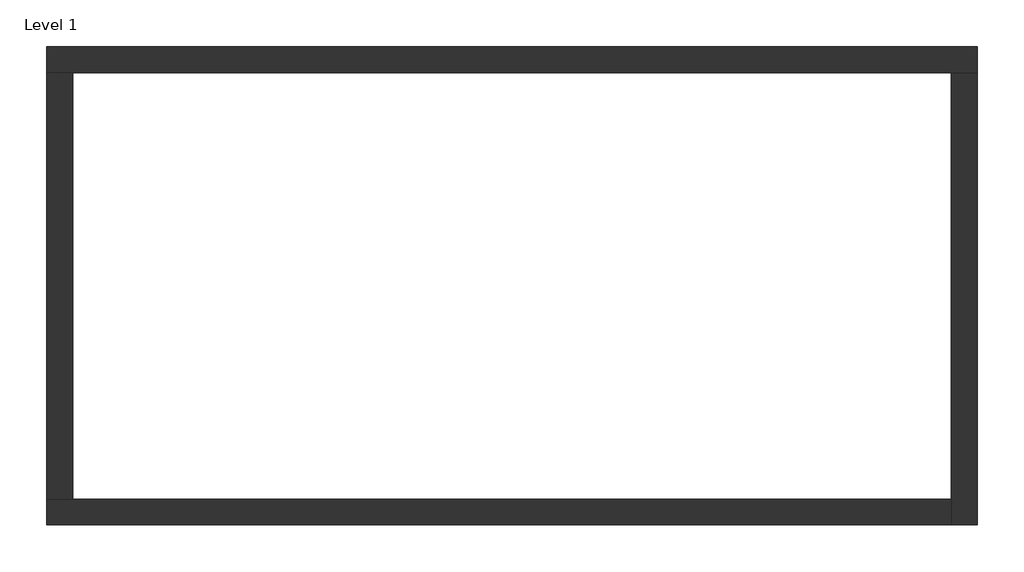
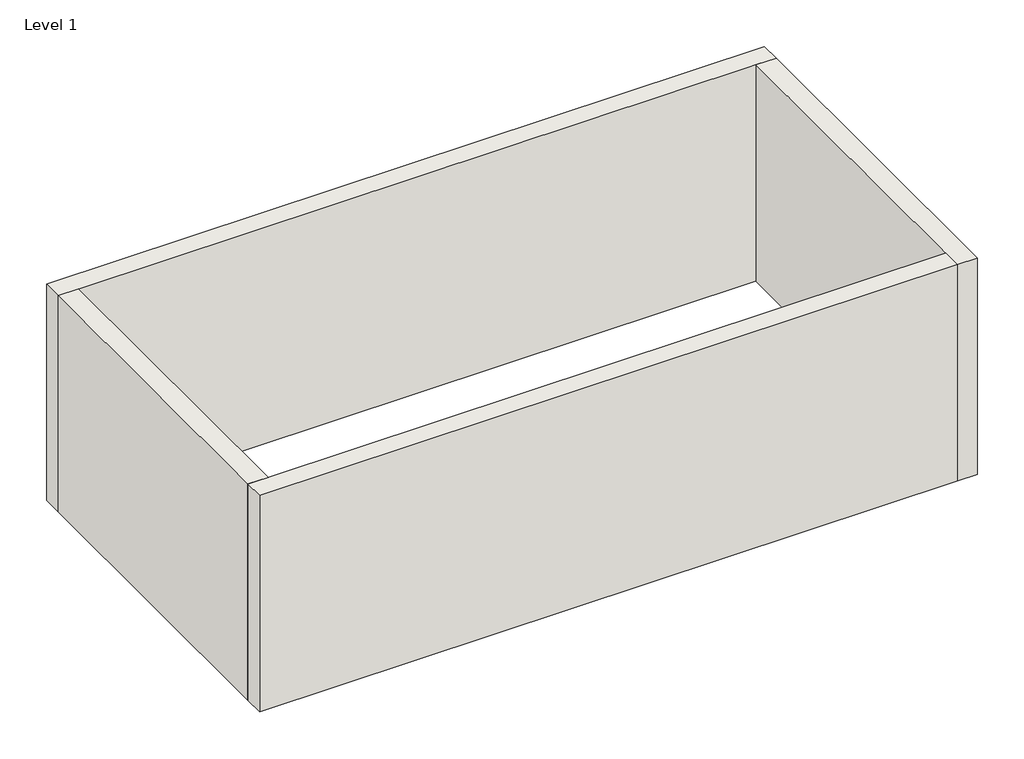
# One storey: 4 walls.
"""IFC4 building model written with IfcOpenShell, lengths in millimetres."""

import ifcopenshell
import ifcopenshell.guid

model = None  # the IFC model being written
_history = None  # IfcOwnerHistory: only IFC2X3 demands one
_inside = {}  # id of a spatial element -> (the spatial element, [elements in it])
_under = {}  # id of a project, library or spatial element -> (it, [spatial elements below it])
_declared = {}  # id of a project -> (the project, [libraries it declares])
_typed = {}  # id of a type object -> (the type object, [elements of that type])
_made_of = {}  # id of a material, layer set ... -> (it, [elements and type objects made of it])


def new_model(schema):
    """Start an empty IFC model of exactly this schema.

    Asked for "IFC4X3", IfcOpenShell would pick the latest addendum, in which some entities
    have other attributes; the version numbers below select the first issue.
    IFC2X3 requires an IfcOwnerHistory on every rooted entity: one is made here for all.
    """
    global model, _history
    if schema == "IFC4X3":
        model = ifcopenshell.file(schema_version=(4, 3, 0, 0))
    else:
        model = ifcopenshell.file(schema=schema)
    _inside.clear()
    _under.clear()
    _declared.clear()
    _typed.clear()
    _made_of.clear()
    _history = None
    if model.schema == "IFC2X3":
        org = make("IfcOrganization", Name="unknown")
        user = make(
            "IfcPersonAndOrganization",
            ThePerson=make("IfcPerson", FamilyName="unknown"),
            TheOrganization=org,
        )
        app = make(
            "IfcApplication",
            ApplicationDeveloper=org,
            Version="unknown",
            ApplicationFullName="unknown",
            ApplicationIdentifier="unknown",
        )
        _history = make(
            "IfcOwnerHistory",
            OwningUser=user,
            OwningApplication=app,
            ChangeAction="ADDED",
            CreationDate=0,
        )
    return model


def make(cls, **values):
    """One entity of the class cls with the attributes given. An attribute that is None is left unset."""
    return model.create_entity(
        cls, **{name: value for name, value in values.items() if value is not None}
    )


def rooted(cls, **values):
    """An entity with a GlobalId (a new one), such as an element, a storey or a relation."""
    return make(cls, GlobalId=ifcopenshell.guid.new(), OwnerHistory=_history, **values)


def si_unit(unit_type, name, prefix=None):
    """IfcSIUnit, for example si_unit("LENGTHUNIT", "METRE", prefix="MILLI")."""
    return make("IfcSIUnit", UnitType=unit_type, Prefix=prefix, Name=name)


def assignment(units):
    """IfcUnitAssignment: the units of a project."""
    return None if units is None else make("IfcUnitAssignment", Units=units)


def point(xyz):
    """IfcCartesianPoint."""
    return None if xyz is None else make("IfcCartesianPoint", Coordinates=xyz)


def direction(xyz):
    """IfcDirection."""
    return None if xyz is None else make("IfcDirection", DirectionRatios=xyz)


def frame(location, z_axis=None, x_axis=None):
    """IfcAxis2Placement3D, a coordinate frame: its origin and axes. An axis left out is left unset."""
    return make(
        "IfcAxis2Placement3D",
        Location=point(location),
        Axis=direction(z_axis),
        RefDirection=direction(x_axis),
    )


def origin():
    """The frame at (0, 0, 0) with its axes left unset."""
    return frame((0.0, 0.0, 0.0))


def origin_with_axes():
    """The frame at (0, 0, 0) with the z axis (0, 0, 1) and the x axis (1, 0, 0) written out."""
    return frame((0.0, 0.0, 0.0), z_axis=(0.0, 0.0, 1.0), x_axis=(1.0, 0.0, 0.0))


def place(relative_to, where):
    """IfcLocalPlacement: puts the frame where relative to a parent placement (None: the world)."""
    return make(
        "IfcLocalPlacement", PlacementRelTo=relative_to, RelativePlacement=where
    )


def context(
    kind, dimensions, precision=None, world=None, true_north=None, identifier=None
):
    """IfcGeometricRepresentationContext, for example the 3D "Model" context."""
    return make(
        "IfcGeometricRepresentationContext",
        ContextIdentifier=identifier,
        ContextType=kind,
        CoordinateSpaceDimension=dimensions,
        Precision=precision,
        WorldCoordinateSystem=world,
        TrueNorth=true_north,
    )


def project(units=None, contexts=None):
    """IfcProject with its units and contexts."""
    return rooted(
        "IfcProject",
        Name="project",
        RepresentationContexts=contexts,
        UnitsInContext=assignment(units),
    )


def spatial(cls, under=None, at=None, **own):
    """A site, building, storey or space (cls), placed at a placement, below another one or the project."""
    s = rooted(cls, ObjectPlacement=at, **own)
    if under is not None:
        _under.setdefault(under.id(), (under, []))[1].append(s)
    return s


def polyline(points):
    """IfcPolyline through the points."""
    return make("IfcPolyline", Points=[point(p) for p in points])


def outline(outer, holes=None, kind="AREA"):
    """IfcArbitraryClosedProfileDef: a profile drawn as a closed curve; with holes, ...WithVoids."""
    if holes is None:
        return make("IfcArbitraryClosedProfileDef", ProfileType=kind, OuterCurve=outer)
    return make(
        "IfcArbitraryProfileDefWithVoids",
        ProfileType=kind,
        OuterCurve=outer,
        InnerCurves=holes,
    )


def extrude(swept, where, along, depth):
    """IfcExtrudedAreaSolid: the profile swept, set in the frame where, extruded along a direction by depth."""
    return make(
        "IfcExtrudedAreaSolid",
        SweptArea=swept,
        Position=where,
        ExtrudedDirection=direction(along),
        Depth=depth,
    )


def faces_of(points, faces, orient=None, outer=None):
    """IfcFace entities. A face is a list of loops; a loop is a list of indices into points, from 0.

    orient and outer hold one flag for each loop. By default every Orientation is true, the
    first loop of a face is its IfcFaceOuterBound and the others are IfcFaceBound.
    """
    made = []
    for i, loops in enumerate(faces):
        bounds = []
        for j, loop in enumerate(loops):
            is_outer = j == 0 if outer is None else outer[i][j]
            bounds.append(
                make(
                    "IfcFaceOuterBound" if is_outer else "IfcFaceBound",
                    Bound=make("IfcPolyLoop", Polygon=[points[k] for k in loop]),
                    Orientation=True if orient is None else orient[i][j],
                )
            )
        made.append(make("IfcFace", Bounds=bounds))
    return made


def faceted_brep(points, faces, orient=None, outer=None, voids=None):
    """IfcFacetedBrep: a solid bounded by flat faces; with voids (closed shells), ...WithVoids."""
    shared = [point(p) for p in points]
    hull = make("IfcClosedShell", CfsFaces=faces_of(shared, faces, orient, outer))
    if voids is None:
        return make("IfcFacetedBrep", Outer=hull)
    return make(
        "IfcFacetedBrepWithVoids",
        Outer=hull,
        Voids=[
            make(cls, CfsFaces=faces_of(shared, fs, o, b)) for cls, fs, o, b in voids
        ],
    )


def shape(context_of_items, identifier, shape_type, items):
    """IfcShapeRepresentation: the items that make up one representation, for example the "Body"."""
    return make(
        "IfcShapeRepresentation",
        ContextOfItems=context_of_items,
        RepresentationIdentifier=identifier,
        RepresentationType=shape_type,
        Items=items,
    )


def made_of(thing, what):
    """Note that an element or type object is made of a material, layer set ...; save() writes the relation."""
    if what is not None:
        _made_of.setdefault(what.id(), (what, []))[1].append(thing)
    return thing


def element(
    cls,
    number,
    at=None,
    inside=None,
    cuts=None,
    type_object=None,
    material=None,
    context=None,
    identifier="Body",
    shape_type=None,
    held_by="IfcProductDefinitionShape",
    body=None,
    shapes=None,
    **own,
):
    """One element of the class cls, such as IfcWall. Its Tag is "e" and its number.

    at: its placement. inside: the storey or other place that contains it. cuts: it is an
    opening in that element (IfcRelVoidsElement). A single representation is given by context,
    identifier, shape_type and body (its items); several are given by shapes. held_by: the class
    of the entity that holds the representations. save() writes the other relations.
    """
    e = rooted(cls, Tag="e%d" % number, ObjectPlacement=at, **own)
    if body is not None:
        shapes = [shape(context, identifier, shape_type, body)]
    if shapes is not None:
        e.Representation = make(held_by, Representations=shapes)
    if inside is not None:
        _inside.setdefault(inside.id(), (inside, []))[1].append(e)
    if cuts is not None:
        rooted(
            "IfcRelVoidsElement", RelatingBuildingElement=cuts, RelatedOpeningElement=e
        )
    if type_object is not None:
        _typed.setdefault(type_object.id(), (type_object, []))[1].append(e)
    return made_of(e, material)


def aggregate(whole, parts):
    """IfcRelAggregates: a whole, such as a stair, and the parts it consists of."""
    return rooted("IfcRelAggregates", RelatingObject=whole, RelatedObjects=parts)


def save(model, path):
    """Write the relations noted so far, then the file.

    IfcRelAggregates (storeys below a building ...), IfcRelContainedInSpatialStructure (elements
    in a storey), IfcRelDefinesByType, IfcRelAssociatesMaterial and IfcRelDeclares: one each for
    every whole, place, type object, material and project.
    """
    for whole, parts in _under.values():
        aggregate(whole, parts)
    for where, things in _inside.values():
        rooted(
            "IfcRelContainedInSpatialStructure",
            RelatedElements=things,
            RelatingStructure=where,
        )
    for kind, things in _typed.values():
        rooted("IfcRelDefinesByType", RelatedObjects=things, RelatingType=kind)
    for what, things in _made_of.values():
        rooted("IfcRelAssociatesMaterial", RelatedObjects=things, RelatingMaterial=what)
    for by, libraries in _declared.values():
        rooted("IfcRelDeclares", RelatingContext=by, RelatedDefinitions=libraries)
    model.write(path)


model = new_model("IFC4")

# Units and contexts
model_context = context("Model", 3, world=origin())
ifc_project = project(units=[si_unit("LENGTHUNIT", "METRE", prefix="MILLI")], contexts=[model_context])

# Site, building, storey
site = spatial("IfcSite", under=ifc_project)
building = spatial("IfcBuilding", under=site)
storey = spatial("IfcBuildingStorey", under=building, Name="Level 1", Elevation=0.0)

# Walls
placement = place(None, origin())
element("IfcWall", 1, ObjectType="Exterior - Brick on Mtl. Stud", at=placement, inside=storey, context=model_context, shape_type="Brep", body=[
    faceted_brep([(-18636.0930086, 13851.0670483, 0.0), (-18286.0930086, 13851.0670483, 0.0), (-6444.0930086, 13851.0670483, 0.0), (-6094.0930086, 13851.0670483, 0.0), (-6094.0930086, 13851.0670483, 4000.0), (-6444.0930086, 13851.0670483, 4000.0), (-18286.0930086, 13851.0670483, 4000.0), (-18636.0930086, 13851.0670483, 4000.0), (-18636.0930086, 14201.0670483, 0.0), (-18636.0930086, 14201.0670483, 4000.0), (-6094.0930086, 14201.0670483, 4000.0), (-6094.0930086, 14201.0670483, 0.0)], [[[0, 1, 2, 3, 4, 5, 6, 7]], [[8, 9, 10, 11]], [[3, 2, 1, 0, 8, 11]], [[7, 6, 5, 4, 10, 9]], [[4, 3, 11, 10]], [[0, 7, 9, 8]]]),
])
element("IfcWall", 2, ObjectType="Exterior - Brick on Mtl. Stud", at=placement, inside=storey, context=model_context, shape_type="Brep", body=[
    faceted_brep([(-6444.0930086, 13851.0670483, 0.0), (-6444.0930086, 8105.0670483, 0.0), (-6444.0930086, 7755.0670483, 0.0), (-6444.0930086, 7755.0670483, 4000.0), (-6444.0930086, 8105.0670483, 4000.0), (-6444.0930086, 13851.0670483, 4000.0), (-6094.0930086, 13851.0670483, 0.0), (-6094.0930086, 13851.0670483, 4000.0), (-6094.0930086, 7755.0670483, 4000.0), (-6094.0930086, 7755.0670483, 0.0)], [[[0, 1, 2, 3, 4, 5]], [[6, 7, 8, 9]], [[2, 1, 0, 6, 9]], [[5, 4, 3, 8, 7]], [[0, 5, 7, 6]], [[3, 2, 9, 8]]]),
])
element("IfcWall", 3, ObjectType="Exterior - Brick on Mtl. Stud", at=placement, inside=storey, context=model_context, shape_type="Brep", body=[
    faceted_brep([(-6444.0930086, 8105.0670483, 0.0), (-18286.0930086, 8105.0670483, 0.0), (-18636.0930086, 8105.0670483, 0.0), (-18636.0930086, 8105.0670483, 4000.0), (-18286.0930086, 8105.0670483, 4000.0), (-6444.0930086, 8105.0670483, 4000.0), (-6444.0930086, 7755.0670483, 0.0), (-6444.0930086, 7755.0670483, 4000.0), (-18636.0930086, 7755.0670483, 4000.0), (-18636.0930086, 7755.0670483, 0.0)], [[[0, 1, 2, 3, 4, 5]], [[6, 7, 8, 9]], [[2, 1, 0, 6, 9]], [[5, 4, 3, 8, 7]], [[0, 5, 7, 6]], [[3, 2, 9, 8]]]),
])
element("IfcWall", 4, ObjectType="Exterior - Brick on Mtl. Stud", at=placement, inside=storey, context=model_context, shape_type="SweptSolid", body=[
    extrude(outline(polyline([(-18286.0930086, 13851.0670483), (-18286.0930086, 8105.0670483), (-18636.0930086, 8105.0670483), (-18636.0930086, 13851.0670483), (-18286.0930086, 13851.0670483)])), origin_with_axes(), (0.0, 0.0, 1.0), 4000.0),
])

save(model, "model.ifc")
